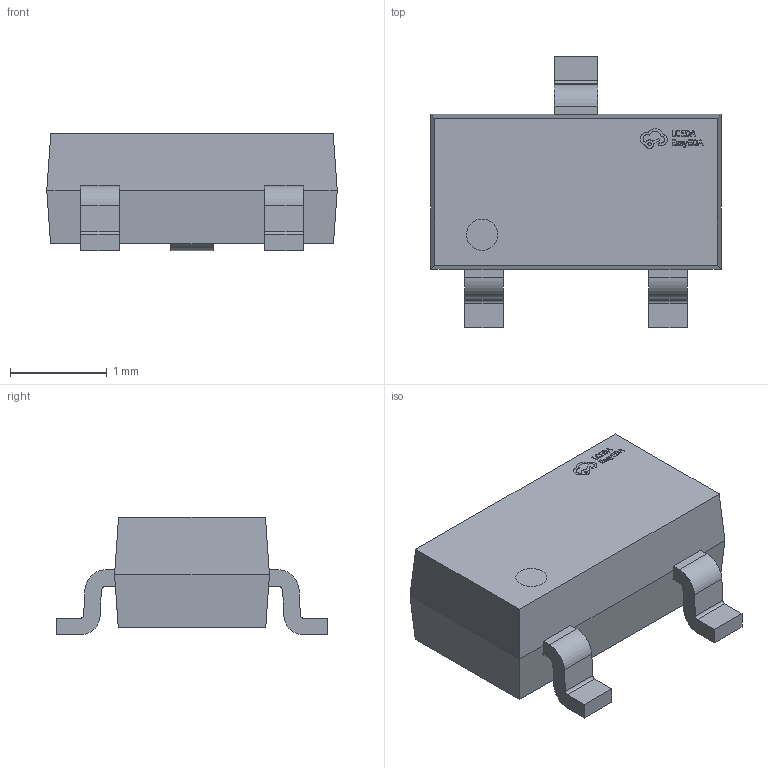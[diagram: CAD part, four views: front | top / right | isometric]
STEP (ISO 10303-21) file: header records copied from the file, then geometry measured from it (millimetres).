
FILE_DESCRIPTION (( 'STEP AP214' ), '1' );
FILE_NAME ('TSOT-23-3_L3.0-W1.6-P0.95-LS2.8-BR.step', '2022-07-26T11:21:51', ( '' ), ( '' ), 'SwSTEP 2.0', 'SolidWorks 2020', '' );
FILE_SCHEMA (( 'AUTOMOTIVE_DESIGN' ));
Length unit declared in the file: millimetre
Products named in the file (1): TSOT-23-3_L3.0-W1.6-P0.95-LS2.8-BR
Bounding box: 3 x 2.8 x 1.21 mm (x, y, z)
Volume: 5.5 mm3; surface area: 22.7 mm2
Topology: 14 solids, 14 shells, 342 faces, 914 edges, 608 vertices
Faces by surface type: plane 216, bspline 112, cylinder 14
Entity records: 15703 total; most frequent: CARTESIAN_POINT 3969, ORIENTED_EDGE 1828, DIRECTION 1176, EDGE_CURVE 914, VECTOR 658, LINE 658, VERTEX_POINT 608, EDGE_LOOP 362
